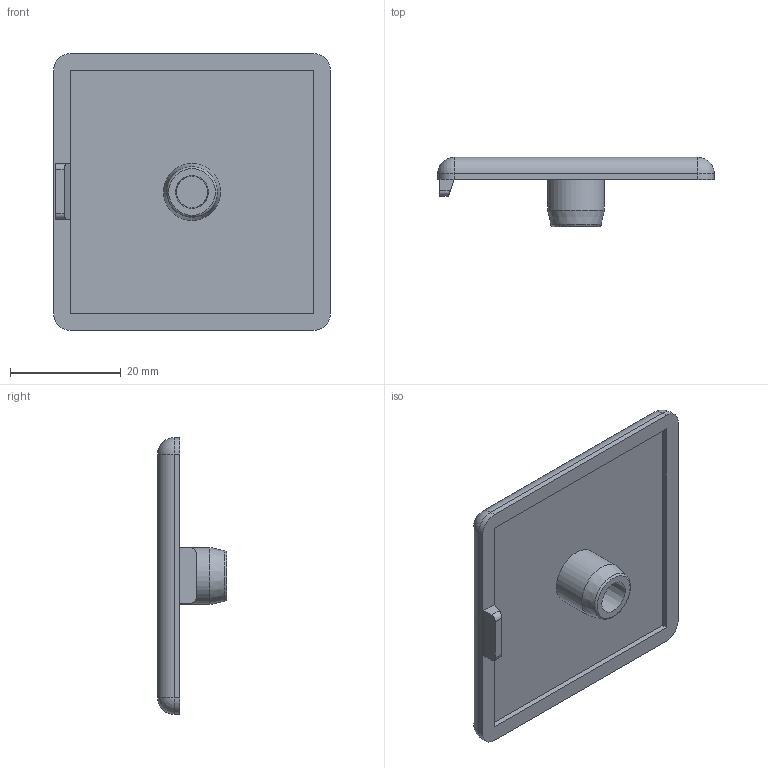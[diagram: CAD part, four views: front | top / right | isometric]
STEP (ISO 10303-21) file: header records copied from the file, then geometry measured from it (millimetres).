
FILE_DESCRIPTION(/* description */ ('STEP AP203'),/* implementation_level */ '2;1');
FILE_NAME(/* name */ '091028S03',/* time_stamp */ '2023-06-28T12:19:25+02:00',/* author */ ('License CC BY-ND 4.0'),/* organization */ ('CADENAS'),/* preprocessor_version */ 'ST-DEVELOPER v19.3',/* originating_system */ 'PARTsolutions',/* authorisation */ ' ');
FILE_SCHEMA (('CONFIG_CONTROL_DESIGN'));
Length unit declared in the file: millimetre
Products named in the file (1): 091028S03
Bounding box: 50 x 12.5 x 50 mm (x, y, z)
Volume: 8234.2 mm3; surface area: 6197.5 mm2
Topology: 1 solids, 1 shells, 36 faces, 81 edges, 46 vertices
Faces by surface type: plane 18, cylinder 11, sphere 4, cone 2, torus 1
Full cylindrical faces by diameter (mm): 10.3 x1
Entity records: 969 total; most frequent: DIRECTION 173, CARTESIAN_POINT 156, ORIENTED_EDGE 146, EDGE_CURVE 73, AXIS2_PLACEMENT_3D 63, LINE 47, VECTOR 47, VERTEX_POINT 46
